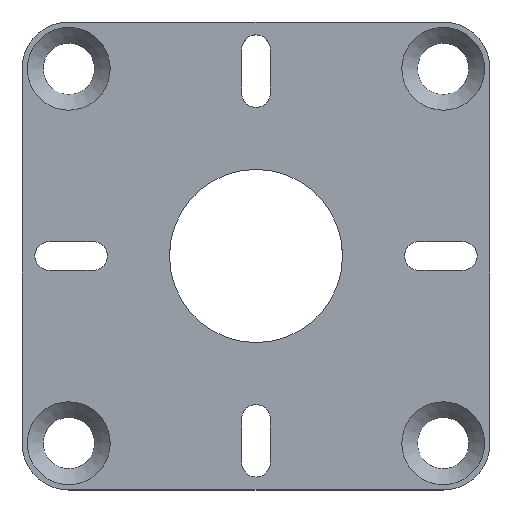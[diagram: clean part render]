
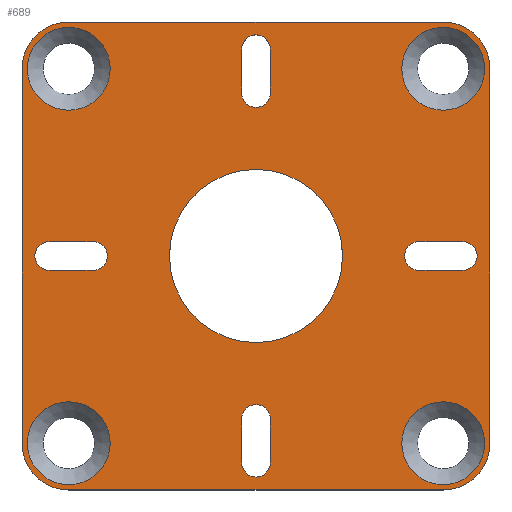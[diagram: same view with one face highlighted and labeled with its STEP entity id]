
A CAD part, top view. The second image highlights one B-rep face of the part: STEP entity #689.
In plain terms, the highlighted planar face has unit normal (0, 0, 1).
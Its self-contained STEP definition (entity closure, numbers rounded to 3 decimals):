
#28=FACE_BOUND('',#130,.T.);
#29=FACE_BOUND('',#131,.T.);
#30=FACE_BOUND('',#132,.T.);
#31=FACE_BOUND('',#133,.T.);
#32=FACE_BOUND('',#134,.T.);
#33=FACE_BOUND('',#135,.T.);
#34=FACE_BOUND('',#136,.T.);
#35=FACE_BOUND('',#137,.T.);
#36=FACE_BOUND('',#138,.T.);
#50=PLANE('',#785);
#85=FACE_OUTER_BOUND('',#129,.T.);
#129=EDGE_LOOP('',(#609,#610,#611,#612,#613,#614,#615,#616));
#130=EDGE_LOOP('',(#617));
#131=EDGE_LOOP('',(#618));
#132=EDGE_LOOP('',(#619));
#133=EDGE_LOOP('',(#620));
#134=EDGE_LOOP('',(#621,#622,#623,#624));
#135=EDGE_LOOP('',(#625,#626,#627,#628));
#136=EDGE_LOOP('',(#629,#630,#631,#632));
#137=EDGE_LOOP('',(#633,#634,#635,#636));
#138=EDGE_LOOP('',(#637));
#153=LINE('',#1059,#210);
#159=LINE('',#1074,#216);
#161=LINE('',#1080,#218);
#172=LINE('',#1121,#229);
#175=LINE('',#1128,#232);
#178=LINE('',#1137,#235);
#181=LINE('',#1144,#238);
#184=LINE('',#1153,#241);
#187=LINE('',#1160,#244);
#190=LINE('',#1169,#247);
#193=LINE('',#1176,#250);
#195=LINE('',#1182,#252);
#210=VECTOR('',#844,10.);
#216=VECTOR('',#860,10.);
#218=VECTOR('',#868,10.);
#229=VECTOR('',#917,10.);
#232=VECTOR('',#926,10.);
#235=VECTOR('',#935,10.);
#238=VECTOR('',#944,10.);
#241=VECTOR('',#953,10.);
#244=VECTOR('',#962,10.);
#247=VECTOR('',#971,10.);
#250=VECTOR('',#980,10.);
#252=VECTOR('',#988,10.);
#253=CIRCLE('',#714,10.);
#271=CIRCLE('',#735,10.);
#272=CIRCLE('',#737,10.);
#273=CIRCLE('',#740,10.);
#274=CIRCLE('',#743,8.85);
#276=CIRCLE('',#747,8.85);
#278=CIRCLE('',#751,8.85);
#280=CIRCLE('',#755,8.85);
#282=CIRCLE('',#759,3.05);
#283=CIRCLE('',#762,3.05);
#284=CIRCLE('',#765,3.05);
#285=CIRCLE('',#768,3.05);
#286=CIRCLE('',#771,3.05);
#287=CIRCLE('',#774,3.05);
#288=CIRCLE('',#777,3.05);
#289=CIRCLE('',#780,3.05);
#290=CIRCLE('',#783,18.5);
#291=VERTEX_POINT('',#993);
#292=VERTEX_POINT('',#994);
#322=VERTEX_POINT('',#1058);
#323=VERTEX_POINT('',#1062);
#324=VERTEX_POINT('',#1066);
#325=VERTEX_POINT('',#1067);
#326=VERTEX_POINT('',#1072);
#327=VERTEX_POINT('',#1076);
#328=VERTEX_POINT('',#1082);
#330=VERTEX_POINT('',#1090);
#332=VERTEX_POINT('',#1098);
#334=VERTEX_POINT('',#1106);
#336=VERTEX_POINT('',#1114);
#337=VERTEX_POINT('',#1116);
#338=VERTEX_POINT('',#1120);
#339=VERTEX_POINT('',#1124);
#340=VERTEX_POINT('',#1130);
#341=VERTEX_POINT('',#1132);
#342=VERTEX_POINT('',#1136);
#343=VERTEX_POINT('',#1140);
#344=VERTEX_POINT('',#1146);
#345=VERTEX_POINT('',#1148);
#346=VERTEX_POINT('',#1152);
#347=VERTEX_POINT('',#1156);
#348=VERTEX_POINT('',#1162);
#349=VERTEX_POINT('',#1164);
#350=VERTEX_POINT('',#1168);
#351=VERTEX_POINT('',#1172);
#352=VERTEX_POINT('',#1178);
#353=EDGE_CURVE('',#291,#292,#253,.T.);
#385=EDGE_CURVE('',#322,#292,#153,.T.);
#387=EDGE_CURVE('',#322,#323,#271,.T.);
#389=EDGE_CURVE('',#324,#325,#272,.T.);
#393=EDGE_CURVE('',#324,#326,#159,.T.);
#394=EDGE_CURVE('',#327,#326,#273,.T.);
#396=EDGE_CURVE('',#327,#323,#161,.T.);
#397=EDGE_CURVE('',#328,#328,#274,.T.);
#401=EDGE_CURVE('',#330,#330,#276,.T.);
#405=EDGE_CURVE('',#332,#332,#278,.T.);
#409=EDGE_CURVE('',#334,#334,#280,.T.);
#414=EDGE_CURVE('',#337,#336,#282,.T.);
#416=EDGE_CURVE('',#338,#337,#172,.T.);
#418=EDGE_CURVE('',#339,#338,#283,.T.);
#420=EDGE_CURVE('',#336,#339,#175,.T.);
#422=EDGE_CURVE('',#341,#340,#284,.T.);
#424=EDGE_CURVE('',#342,#341,#178,.T.);
#426=EDGE_CURVE('',#343,#342,#285,.T.);
#428=EDGE_CURVE('',#340,#343,#181,.T.);
#430=EDGE_CURVE('',#345,#344,#286,.T.);
#432=EDGE_CURVE('',#346,#345,#184,.T.);
#434=EDGE_CURVE('',#347,#346,#287,.T.);
#436=EDGE_CURVE('',#344,#347,#187,.T.);
#438=EDGE_CURVE('',#349,#348,#288,.T.);
#440=EDGE_CURVE('',#350,#349,#190,.T.);
#442=EDGE_CURVE('',#351,#350,#289,.T.);
#444=EDGE_CURVE('',#348,#351,#193,.T.);
#445=EDGE_CURVE('',#352,#352,#290,.T.);
#447=EDGE_CURVE('',#291,#325,#195,.T.);
#609=ORIENTED_EDGE('',*,*,#353,.F.);
#610=ORIENTED_EDGE('',*,*,#447,.T.);
#611=ORIENTED_EDGE('',*,*,#389,.F.);
#612=ORIENTED_EDGE('',*,*,#393,.T.);
#613=ORIENTED_EDGE('',*,*,#394,.F.);
#614=ORIENTED_EDGE('',*,*,#396,.T.);
#615=ORIENTED_EDGE('',*,*,#387,.F.);
#616=ORIENTED_EDGE('',*,*,#385,.T.);
#617=ORIENTED_EDGE('',*,*,#397,.T.);
#618=ORIENTED_EDGE('',*,*,#401,.T.);
#619=ORIENTED_EDGE('',*,*,#405,.T.);
#620=ORIENTED_EDGE('',*,*,#409,.T.);
#621=ORIENTED_EDGE('',*,*,#418,.T.);
#622=ORIENTED_EDGE('',*,*,#416,.T.);
#623=ORIENTED_EDGE('',*,*,#414,.T.);
#624=ORIENTED_EDGE('',*,*,#420,.T.);
#625=ORIENTED_EDGE('',*,*,#426,.T.);
#626=ORIENTED_EDGE('',*,*,#424,.T.);
#627=ORIENTED_EDGE('',*,*,#422,.T.);
#628=ORIENTED_EDGE('',*,*,#428,.T.);
#629=ORIENTED_EDGE('',*,*,#434,.T.);
#630=ORIENTED_EDGE('',*,*,#432,.T.);
#631=ORIENTED_EDGE('',*,*,#430,.T.);
#632=ORIENTED_EDGE('',*,*,#436,.T.);
#633=ORIENTED_EDGE('',*,*,#442,.T.);
#634=ORIENTED_EDGE('',*,*,#440,.T.);
#635=ORIENTED_EDGE('',*,*,#438,.T.);
#636=ORIENTED_EDGE('',*,*,#444,.T.);
#637=ORIENTED_EDGE('',*,*,#445,.T.);
#689=ADVANCED_FACE('',(#85,#28,#29,#30,#31,#32,#33,#34,#35,#36),#50,.T.);
#714=AXIS2_PLACEMENT_3D('',#995,#790,#791);
#735=AXIS2_PLACEMENT_3D('',#1063,#848,#849);
#737=AXIS2_PLACEMENT_3D('',#1068,#853,#854);
#740=AXIS2_PLACEMENT_3D('',#1077,#863,#864);
#743=AXIS2_PLACEMENT_3D('',#1083,#871,#872);
#747=AXIS2_PLACEMENT_3D('',#1091,#881,#882);
#751=AXIS2_PLACEMENT_3D('',#1099,#891,#892);
#755=AXIS2_PLACEMENT_3D('',#1107,#901,#902);
#759=AXIS2_PLACEMENT_3D('',#1117,#912,#913);
#762=AXIS2_PLACEMENT_3D('',#1125,#921,#922);
#765=AXIS2_PLACEMENT_3D('',#1133,#930,#931);
#768=AXIS2_PLACEMENT_3D('',#1141,#939,#940);
#771=AXIS2_PLACEMENT_3D('',#1149,#948,#949);
#774=AXIS2_PLACEMENT_3D('',#1157,#957,#958);
#777=AXIS2_PLACEMENT_3D('',#1165,#966,#967);
#780=AXIS2_PLACEMENT_3D('',#1173,#975,#976);
#783=AXIS2_PLACEMENT_3D('',#1179,#983,#984);
#785=AXIS2_PLACEMENT_3D('',#1183,#989,#990);
#790=DIRECTION('center_axis',(0.,0.,-1.));
#791=DIRECTION('ref_axis',(0.707,-0.707,0.));
#844=DIRECTION('',(1.,0.,0.));
#848=DIRECTION('center_axis',(0.,0.,-1.));
#849=DIRECTION('ref_axis',(-0.707,-0.707,0.));
#853=DIRECTION('center_axis',(0.,0.,-1.));
#854=DIRECTION('ref_axis',(0.707,0.707,0.));
#860=DIRECTION('',(-1.,0.,0.));
#863=DIRECTION('center_axis',(0.,0.,-1.));
#864=DIRECTION('ref_axis',(-0.707,0.707,0.));
#868=DIRECTION('',(0.,-1.,0.));
#871=DIRECTION('center_axis',(0.,0.,-1.));
#872=DIRECTION('ref_axis',(1.,0.,0.));
#881=DIRECTION('center_axis',(0.,0.,-1.));
#882=DIRECTION('ref_axis',(1.,0.,0.));
#891=DIRECTION('center_axis',(0.,0.,-1.));
#892=DIRECTION('ref_axis',(1.,0.,0.));
#901=DIRECTION('center_axis',(0.,0.,-1.));
#902=DIRECTION('ref_axis',(1.,0.,0.));
#912=DIRECTION('center_axis',(0.,0.,-1.));
#913=DIRECTION('ref_axis',(0.,-1.,0.));
#917=DIRECTION('',(1.,0.,0.));
#921=DIRECTION('center_axis',(0.,0.,-1.));
#922=DIRECTION('ref_axis',(0.,1.,0.));
#926=DIRECTION('',(-1.,0.,0.));
#930=DIRECTION('center_axis',(0.,0.,-1.));
#931=DIRECTION('ref_axis',(0.,1.,0.));
#935=DIRECTION('',(-1.,0.,0.));
#939=DIRECTION('center_axis',(0.,0.,-1.));
#940=DIRECTION('ref_axis',(0.,-1.,0.));
#944=DIRECTION('',(1.,0.,0.));
#948=DIRECTION('center_axis',(0.,0.,-1.));
#949=DIRECTION('ref_axis',(-1.,0.,0.));
#953=DIRECTION('',(0.,-1.,0.));
#957=DIRECTION('center_axis',(0.,0.,-1.));
#958=DIRECTION('ref_axis',(1.,0.,0.));
#962=DIRECTION('',(0.,1.,0.));
#966=DIRECTION('center_axis',(0.,0.,-1.));
#967=DIRECTION('ref_axis',(1.,0.,0.));
#971=DIRECTION('',(0.,1.,0.));
#975=DIRECTION('center_axis',(0.,0.,-1.));
#976=DIRECTION('ref_axis',(-1.,0.,0.));
#980=DIRECTION('',(0.,-1.,0.));
#983=DIRECTION('center_axis',(0.,0.,-1.));
#984=DIRECTION('ref_axis',(1.,0.,0.));
#988=DIRECTION('',(0.,1.,0.));
#989=DIRECTION('center_axis',(0.,0.,1.));
#990=DIRECTION('ref_axis',(1.,0.,0.));
#993=CARTESIAN_POINT('',(50.,-40.,2.));
#994=CARTESIAN_POINT('',(40.,-50.,2.));
#995=CARTESIAN_POINT('Origin',(40.,-40.,2.));
#1058=CARTESIAN_POINT('',(-40.,-50.,2.));
#1059=CARTESIAN_POINT('',(-50.,-50.,2.));
#1062=CARTESIAN_POINT('',(-50.,-40.,2.));
#1063=CARTESIAN_POINT('Origin',(-40.,-40.,2.));
#1066=CARTESIAN_POINT('',(40.,50.,2.));
#1067=CARTESIAN_POINT('',(50.,40.,2.));
#1068=CARTESIAN_POINT('Origin',(40.,40.,2.));
#1072=CARTESIAN_POINT('',(-40.,50.,2.));
#1074=CARTESIAN_POINT('',(50.,50.,2.));
#1076=CARTESIAN_POINT('',(-50.,40.,2.));
#1077=CARTESIAN_POINT('Origin',(-40.,40.,2.));
#1080=CARTESIAN_POINT('',(-50.,50.,2.));
#1082=CARTESIAN_POINT('',(31.15,-40.,2.));
#1083=CARTESIAN_POINT('Origin',(40.,-40.,2.));
#1090=CARTESIAN_POINT('',(-48.85,40.,2.));
#1091=CARTESIAN_POINT('Origin',(-40.,40.,2.));
#1098=CARTESIAN_POINT('',(31.15,40.,2.));
#1099=CARTESIAN_POINT('Origin',(40.,40.,2.));
#1106=CARTESIAN_POINT('',(-48.85,-40.,2.));
#1107=CARTESIAN_POINT('Origin',(-40.,-40.,2.));
#1114=CARTESIAN_POINT('',(-34.8,-3.05,2.));
#1116=CARTESIAN_POINT('',(-34.8,3.05,2.));
#1117=CARTESIAN_POINT('Origin',(-34.8,0.,2.));
#1120=CARTESIAN_POINT('',(-44.2,3.05,2.));
#1121=CARTESIAN_POINT('',(-22.1,3.05,2.));
#1124=CARTESIAN_POINT('',(-44.2,-3.05,2.));
#1125=CARTESIAN_POINT('Origin',(-44.2,0.,2.));
#1128=CARTESIAN_POINT('',(-17.4,-3.05,2.));
#1130=CARTESIAN_POINT('',(34.8,3.05,2.));
#1132=CARTESIAN_POINT('',(34.8,-3.05,2.));
#1133=CARTESIAN_POINT('Origin',(34.8,0.,2.));
#1136=CARTESIAN_POINT('',(44.2,-3.05,2.));
#1137=CARTESIAN_POINT('',(22.1,-3.05,2.));
#1140=CARTESIAN_POINT('',(44.2,3.05,2.));
#1141=CARTESIAN_POINT('Origin',(44.2,0.,2.));
#1144=CARTESIAN_POINT('',(17.4,3.05,2.));
#1146=CARTESIAN_POINT('',(-3.05,34.8,2.));
#1148=CARTESIAN_POINT('',(3.05,34.8,2.));
#1149=CARTESIAN_POINT('Origin',(0.,34.8,2.));
#1152=CARTESIAN_POINT('',(3.05,44.2,2.));
#1153=CARTESIAN_POINT('',(3.05,22.1,2.));
#1156=CARTESIAN_POINT('',(-3.05,44.2,2.));
#1157=CARTESIAN_POINT('Origin',(0.,44.2,2.));
#1160=CARTESIAN_POINT('',(-3.05,17.4,2.));
#1162=CARTESIAN_POINT('',(3.05,-34.8,2.));
#1164=CARTESIAN_POINT('',(-3.05,-34.8,2.));
#1165=CARTESIAN_POINT('Origin',(0.,-34.8,2.));
#1168=CARTESIAN_POINT('',(-3.05,-44.2,2.));
#1169=CARTESIAN_POINT('',(-3.05,-22.1,2.));
#1172=CARTESIAN_POINT('',(3.05,-44.2,2.));
#1173=CARTESIAN_POINT('Origin',(0.,-44.2,2.));
#1176=CARTESIAN_POINT('',(3.05,-17.4,2.));
#1178=CARTESIAN_POINT('',(-18.5,0.,2.));
#1179=CARTESIAN_POINT('Origin',(0.,0.,2.));
#1182=CARTESIAN_POINT('',(50.,-50.,2.));
#1183=CARTESIAN_POINT('Origin',(0.,0.,2.));
